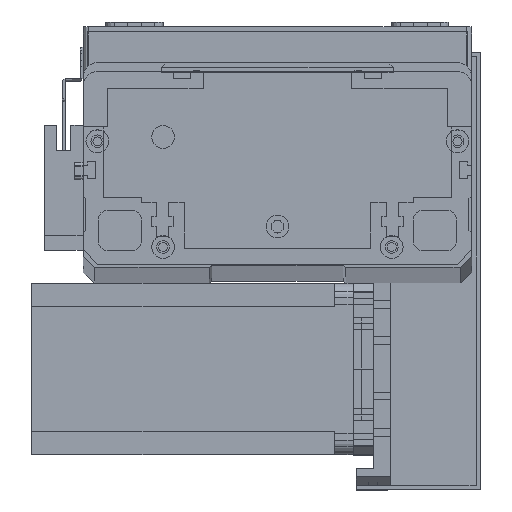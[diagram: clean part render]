
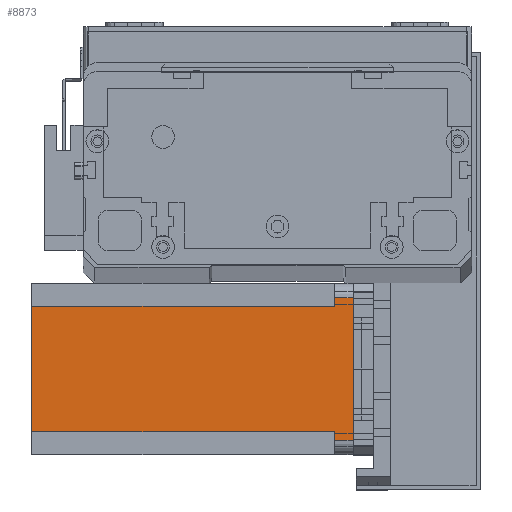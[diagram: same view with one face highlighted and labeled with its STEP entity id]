
A CAD part, top view. The second image highlights one B-rep face of the part: STEP entity #8873.
In plain terms, the highlighted planar face has unit normal (0, 0, 1) as drawn and (0, -1, 0) by its records, which use the part's own axes.
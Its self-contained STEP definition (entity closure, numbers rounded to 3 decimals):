
#1833 = ORIENTED_EDGE ( 'NONE', *, *, #28320, .F. ) ;
#2046 = CARTESIAN_POINT ( 'NONE',  ( 5., 0., 0. ) ) ;
#2188 = VECTOR ( 'NONE', #19935, 1000. ) ;
#2497 = DIRECTION ( 'NONE',  ( 1., 0., 0. ) ) ;
#2806 = VERTEX_POINT ( 'NONE', #27994 ) ;
#2944 = ORIENTED_EDGE ( 'NONE', *, *, #6985, .T. ) ;
#3330 = VERTEX_POINT ( 'NONE', #3894 ) ;
#3894 = CARTESIAN_POINT ( 'NONE',  ( 5., 0., -6.5 ) ) ;
#4130 = ORIENTED_EDGE ( 'NONE', *, *, #11383, .F. ) ;
#4960 = CARTESIAN_POINT ( 'NONE',  ( 0., 0., -112.5 ) ) ;
#5451 = LINE ( 'NONE', #31118, #24048 ) ;
#5699 = CARTESIAN_POINT ( 'NONE',  ( 52., 0., -6.5 ) ) ;
#6461 = DIRECTION ( 'NONE',  ( 0., -1., 0. ) ) ;
#6662 = LINE ( 'NONE', #16474, #25227 ) ;
#6985 = EDGE_CURVE ( 'NONE', #13864, #20920, #8336, .T. ) ;
#7550 = VECTOR ( 'NONE', #11366, 1000. ) ;
#7663 = EDGE_CURVE ( 'NONE', #29155, #2806, #15146, .T. ) ;
#8336 = LINE ( 'NONE', #25811, #7550 ) ;
#8347 = ORIENTED_EDGE ( 'NONE', *, *, #7663, .T. ) ;
#8873 = ADVANCED_FACE ( 'NONE', ( #8994 ), #18584, .T. ) ;
#8994 = FACE_OUTER_BOUND ( 'NONE', #16357, .T. ) ;
#9402 = CARTESIAN_POINT ( 'NONE',  ( 55., 0., 0. ) ) ;
#9459 = CARTESIAN_POINT ( 'NONE',  ( 8., 0., -112.5 ) ) ;
#9503 = EDGE_CURVE ( 'NONE', #29155, #23131, #20674, .T. ) ;
#10230 = CARTESIAN_POINT ( 'NONE',  ( 8., 0., -6.5 ) ) ;
#10595 = ORIENTED_EDGE ( 'NONE', *, *, #22871, .T. ) ;
#10733 = CARTESIAN_POINT ( 'NONE',  ( 0., 0., 0. ) ) ;
#11366 = DIRECTION ( 'NONE',  ( 0., 0., 1. ) ) ;
#11383 = EDGE_CURVE ( 'NONE', #18631, #20920, #13084, .T. ) ;
#11773 = DIRECTION ( 'NONE',  ( 0., 0., -1. ) ) ;
#12281 = CARTESIAN_POINT ( 'NONE',  ( 55., 0., -6.5 ) ) ;
#12341 = VECTOR ( 'NONE', #22103, 1000. ) ;
#13053 = ORIENTED_EDGE ( 'NONE', *, *, #23732, .T. ) ;
#13084 = LINE ( 'NONE', #10733, #18751 ) ;
#13635 = CARTESIAN_POINT ( 'NONE',  ( 0., 0., -112.5 ) ) ;
#13861 = LINE ( 'NONE', #14945, #12341 ) ;
#13864 = VERTEX_POINT ( 'NONE', #12281 ) ;
#14657 = AXIS2_PLACEMENT_3D ( 'NONE', #13635, #6461, #23421 ) ;
#14945 = CARTESIAN_POINT ( 'NONE',  ( 52., 0., -6.5 ) ) ;
#15146 = LINE ( 'NONE', #4960, #21541 ) ;
#15485 = DIRECTION ( 'NONE',  ( 1., 0., 0. ) ) ;
#15992 = ORIENTED_EDGE ( 'NONE', *, *, #23523, .F. ) ;
#16357 = EDGE_LOOP ( 'NONE', ( #13053, #2944, #4130, #10595, #1833, #28922, #8347, #15992 ) ) ;
#16474 = CARTESIAN_POINT ( 'NONE',  ( 5., 0., -112.5 ) ) ;
#16543 = VECTOR ( 'NONE', #19166, 1000. ) ;
#16576 = DIRECTION ( 'NONE',  ( 0., 0., -1. ) ) ;
#18584 = PLANE ( 'NONE',  #14657 ) ;
#18631 = VERTEX_POINT ( 'NONE', #2046 ) ;
#18751 = VECTOR ( 'NONE', #15485, 1000. ) ;
#19166 = DIRECTION ( 'NONE',  ( 0., 0., 1. ) ) ;
#19935 = DIRECTION ( 'NONE',  ( -1., 0., 0. ) ) ;
#20674 = LINE ( 'NONE', #9459, #16543 ) ;
#20920 = VERTEX_POINT ( 'NONE', #9402 ) ;
#21541 = VECTOR ( 'NONE', #2497, 1000. ) ;
#22103 = DIRECTION ( 'NONE',  ( 1., 0., 0. ) ) ;
#22871 = EDGE_CURVE ( 'NONE', #18631, #3330, #6662, .T. ) ;
#23131 = VERTEX_POINT ( 'NONE', #27210 ) ;
#23421 = DIRECTION ( 'NONE',  ( 0., 0., -1. ) ) ;
#23523 = EDGE_CURVE ( 'NONE', #29591, #2806, #5451, .T. ) ;
#23732 = EDGE_CURVE ( 'NONE', #29591, #13864, #13861, .T. ) ;
#24048 = VECTOR ( 'NONE', #11773, 1000. ) ;
#25227 = VECTOR ( 'NONE', #16576, 1000. ) ;
#25653 = CARTESIAN_POINT ( 'NONE',  ( 8., 0., -112.5 ) ) ;
#25811 = CARTESIAN_POINT ( 'NONE',  ( 55., 0., -112.5 ) ) ;
#27210 = CARTESIAN_POINT ( 'NONE',  ( 8., 0., -6.5 ) ) ;
#27994 = CARTESIAN_POINT ( 'NONE',  ( 52., 0., -112.5 ) ) ;
#28022 = LINE ( 'NONE', #10230, #2188 ) ;
#28320 = EDGE_CURVE ( 'NONE', #23131, #3330, #28022, .T. ) ;
#28922 = ORIENTED_EDGE ( 'NONE', *, *, #9503, .F. ) ;
#29155 = VERTEX_POINT ( 'NONE', #25653 ) ;
#29591 = VERTEX_POINT ( 'NONE', #5699 ) ;
#31118 = CARTESIAN_POINT ( 'NONE',  ( 52., 0., -112.5 ) ) ;
